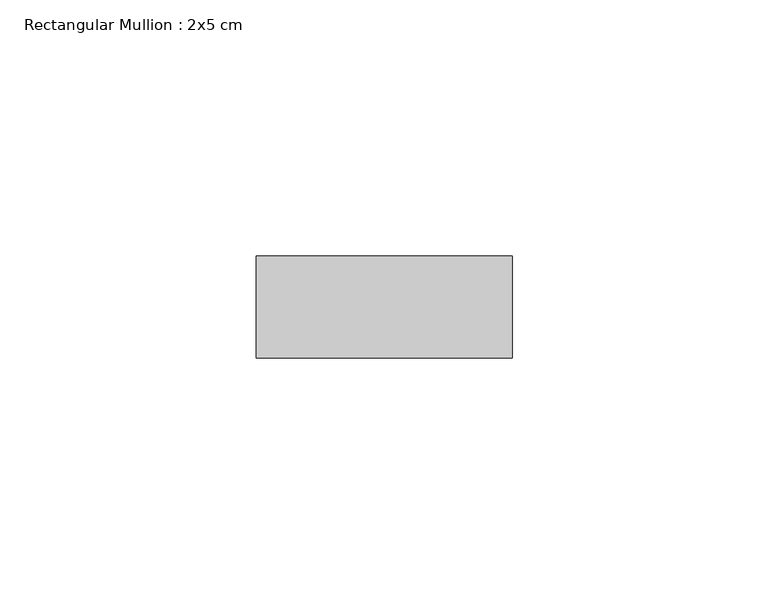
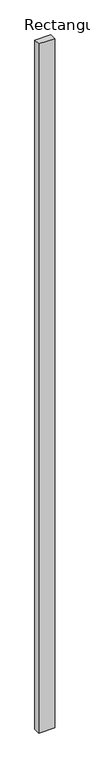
"""IFC4 building model written with IfcOpenShell, lengths in millimetres: member geometry, Rectangular Mullion : 2x5 cm."""

from ifc_helpers import new_model, si_unit, frame, origin, place, context, project, spatial, polyline, outline, extrude, source, transform, mapped, element, save


def rectangular_mullion_2x5_cm_405545c6(model_context):
    return source(origin(), model_context, "Body", "SweptSolid", [
        extrude(outline(polyline([(50.0, 20.0), (50.0, 0.0), (0.0, 0.0), (0.0, 20.0), (50.0, 20.0)])), frame((0.0, 0.0, -2268.4314816), z_axis=(0.0, 0.0, 1.0), x_axis=(1.0, 0.0, 0.0)), (0.0, 0.0, 1.0), 2268.4314816),
    ])


if __name__ == "__main__":
    model = new_model("IFC4")
    model_context = context("Model", 3, world=origin())
    ifc_project = project(units=[si_unit("LENGTHUNIT", "METRE", prefix="MILLI")], contexts=[model_context])
    site = spatial("IfcSite", under=ifc_project)
    building = spatial("IfcBuilding", under=site)
    placement = place(None, origin())
    rectangular_mullion_2x5_cm_shape = rectangular_mullion_2x5_cm_405545c6(model_context)
    element("IfcMember", 1, ObjectType="Rectangular Mullion : 2x5 cm", at=placement, inside=building, context=model_context, shape_type="MappedRepresentation", body=[
        mapped(rectangular_mullion_2x5_cm_shape, transform((0.0, 0.0, 0.0), x_axis=(1.0, 0.0, 0.0), y_axis=(0.0, 1.0, 0.0), z_axis=(0.0, 0.0, 1.0))),
    ])
    save(model, "model.ifc")
